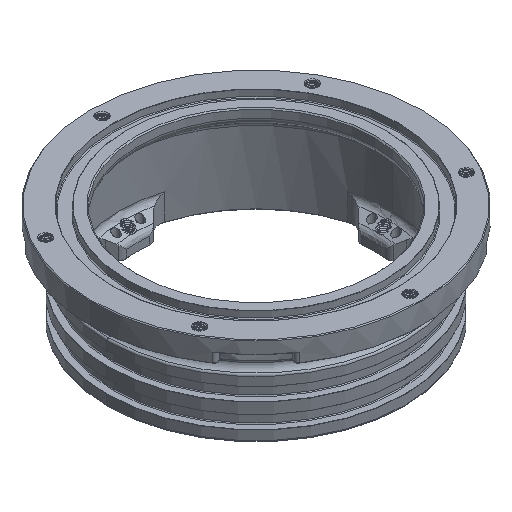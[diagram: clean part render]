
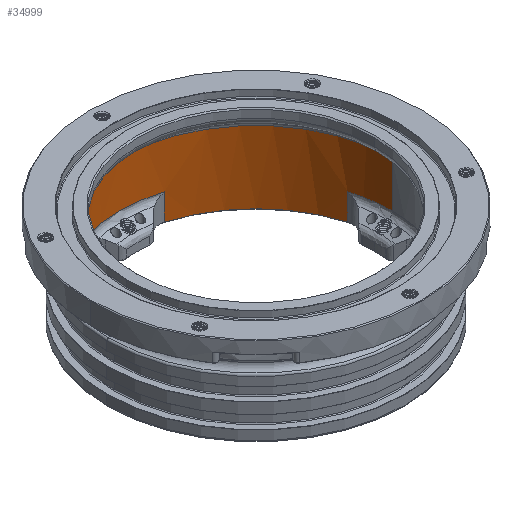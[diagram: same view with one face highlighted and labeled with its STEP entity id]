
A CAD part, isometric view. The second image highlights one B-rep face of the part: STEP entity #34999.
In plain terms, the highlighted cylindrical face has radius 36.5 mm (diameter 73 mm), a partial arc.
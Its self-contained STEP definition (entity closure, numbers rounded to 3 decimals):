
#377 = LINE ( 'NONE', #11102, #10135 ) ;
#515 = ORIENTED_EDGE ( 'NONE', *, *, #72603, .F. ) ;
#2353 = CIRCLE ( 'NONE', #53773, 36.5 ) ;
#2361 = CARTESIAN_POINT ( 'NONE',  ( -34.986, 10.402, 27.091 ) ) ;
#2571 = VERTEX_POINT ( 'NONE', #11653 ) ;
#7696 = ORIENTED_EDGE ( 'NONE', *, *, #52631, .T. ) ;
#8947 = CARTESIAN_POINT ( 'NONE',  ( 36.5, 0., 19.632 ) ) ;
#10135 = VECTOR ( 'NONE', #82217, 1000. ) ;
#11102 = CARTESIAN_POINT ( 'NONE',  ( 34.986, 10.402, 27.091 ) ) ;
#11653 = CARTESIAN_POINT ( 'NONE',  ( 34.986, 10.402, 0.3 ) ) ;
#16911 = EDGE_CURVE ( 'NONE', #83303, #72485, #17758, .T. ) ;
#17758 = LINE ( 'NONE', #61953, #98865 ) ;
#17760 = LINE ( 'NONE', #54180, #29655 ) ;
#18682 = CARTESIAN_POINT ( 'NONE',  ( 36.5, 0., 7.368 ) ) ;
#19666 = CIRCLE ( 'NONE', #86448, 36.5 ) ;
#19889 = CARTESIAN_POINT ( 'NONE',  ( -10.402, 34.986, 7.368 ) ) ;
#20018 = EDGE_CURVE ( 'NONE', #107237, #28414, #49514, .T. ) ;
#20948 = FACE_OUTER_BOUND ( 'NONE', #108835, .T. ) ;
#21342 = ORIENTED_EDGE ( 'NONE', *, *, #50913, .T. ) ;
#22256 = ORIENTED_EDGE ( 'NONE', *, *, #71690, .T. ) ;
#22712 = CARTESIAN_POINT ( 'NONE',  ( -10.402, 34.986, 0.3 ) ) ;
#28286 = DIRECTION ( 'NONE',  ( 0., 0., -1. ) ) ;
#28414 = VERTEX_POINT ( 'NONE', #91072 ) ;
#29282 = CARTESIAN_POINT ( 'NONE',  ( 0., 0., 7.368 ) ) ;
#29655 = VECTOR ( 'NONE', #113277, 1000. ) ;
#31273 = AXIS2_PLACEMENT_3D ( 'NONE', #29282, #48346, #102731 ) ;
#32812 = DIRECTION ( 'NONE',  ( 0., 0., -1. ) ) ;
#34999 = ADVANCED_FACE ( 'NONE', ( #20948 ), #74718, .F. ) ;
#37297 = ORIENTED_EDGE ( 'NONE', *, *, #89920, .T. ) ;
#40660 = EDGE_CURVE ( 'NONE', #46377, #2571, #2353, .T. ) ;
#41229 = ORIENTED_EDGE ( 'NONE', *, *, #94857, .T. ) ;
#41460 = DIRECTION ( 'NONE',  ( 1., 0., 0. ) ) ;
#43522 = CARTESIAN_POINT ( 'NONE',  ( 0., 0., 7.368 ) ) ;
#44802 = CARTESIAN_POINT ( 'NONE',  ( 0., 0., 0.3 ) ) ;
#45377 = DIRECTION ( 'NONE',  ( 1., 0., 0. ) ) ;
#46377 = VERTEX_POINT ( 'NONE', #116414 ) ;
#48346 = DIRECTION ( 'NONE',  ( 0., 0., -1. ) ) ;
#48543 = VERTEX_POINT ( 'NONE', #19889 ) ;
#49514 = LINE ( 'NONE', #2361, #102777 ) ;
#50355 = AXIS2_PLACEMENT_3D ( 'NONE', #43522, #32812, #108044 ) ;
#50913 = EDGE_CURVE ( 'NONE', #68810, #88355, #78930, .T. ) ;
#50997 = CARTESIAN_POINT ( 'NONE',  ( 0., 0., 7.368 ) ) ;
#52367 = CARTESIAN_POINT ( 'NONE',  ( -36.5, 0., 19.632 ) ) ;
#52631 = EDGE_CURVE ( 'NONE', #48543, #77913, #101883, .T. ) ;
#53773 = AXIS2_PLACEMENT_3D ( 'NONE', #44802, #81243, #108742 ) ;
#54180 = CARTESIAN_POINT ( 'NONE',  ( -10.402, 34.986, 27.091 ) ) ;
#55148 = CARTESIAN_POINT ( 'NONE',  ( 0., 0., 0.3 ) ) ;
#58951 = CARTESIAN_POINT ( 'NONE',  ( -34.986, 10.402, 7.368 ) ) ;
#60050 = EDGE_CURVE ( 'NONE', #48543, #87631, #17760, .T. ) ;
#61953 = CARTESIAN_POINT ( 'NONE',  ( -36.5, 0., 0. ) ) ;
#62939 = ORIENTED_EDGE ( 'NONE', *, *, #20018, .T. ) ;
#64568 = DIRECTION ( 'NONE',  ( 0., 0., 1. ) ) ;
#64681 = DIRECTION ( 'NONE',  ( 1., 0., 0. ) ) ;
#65567 = LINE ( 'NONE', #73961, #102464 ) ;
#65730 = DIRECTION ( 'NONE',  ( 1., 0., 0. ) ) ;
#68810 = VERTEX_POINT ( 'NONE', #101053 ) ;
#70455 = CIRCLE ( 'NONE', #114410, 36.5 ) ;
#71301 = ORIENTED_EDGE ( 'NONE', *, *, #60050, .F. ) ;
#71690 = EDGE_CURVE ( 'NONE', #88355, #75256, #65567, .T. ) ;
#72485 = VERTEX_POINT ( 'NONE', #52367 ) ;
#72603 = EDGE_CURVE ( 'NONE', #68810, #2571, #377, .T. ) ;
#73428 = DIRECTION ( 'NONE',  ( 0., 0., 1. ) ) ;
#73604 = ORIENTED_EDGE ( 'NONE', *, *, #75301, .T. ) ;
#73961 = CARTESIAN_POINT ( 'NONE',  ( 36.5, 0., 0. ) ) ;
#74718 = CYLINDRICAL_SURFACE ( 'NONE', #80251, 36.5 ) ;
#75256 = VERTEX_POINT ( 'NONE', #8947 ) ;
#75301 = EDGE_CURVE ( 'NONE', #75256, #72485, #19666, .T. ) ;
#77287 = DIRECTION ( 'NONE',  ( 0., 0., -1. ) ) ;
#77913 = VERTEX_POINT ( 'NONE', #106792 ) ;
#78930 = CIRCLE ( 'NONE', #31273, 36.5 ) ;
#80251 = AXIS2_PLACEMENT_3D ( 'NONE', #93840, #64568, #65730 ) ;
#81243 = DIRECTION ( 'NONE',  ( 0., 0., -1. ) ) ;
#82217 = DIRECTION ( 'NONE',  ( 0., 0., -1. ) ) ;
#83303 = VERTEX_POINT ( 'NONE', #100761 ) ;
#83645 = DIRECTION ( 'NONE',  ( 0., 0., -1. ) ) ;
#86448 = AXIS2_PLACEMENT_3D ( 'NONE', #107565, #73428, #45377 ) ;
#87631 = VERTEX_POINT ( 'NONE', #22712 ) ;
#88355 = VERTEX_POINT ( 'NONE', #18682 ) ;
#89472 = EDGE_CURVE ( 'NONE', #28414, #87631, #70455, .T. ) ;
#89920 = EDGE_CURVE ( 'NONE', #83303, #107237, #101012, .T. ) ;
#91072 = CARTESIAN_POINT ( 'NONE',  ( -34.986, 10.402, 0.3 ) ) ;
#91622 = VECTOR ( 'NONE', #83645, 1000. ) ;
#93840 = CARTESIAN_POINT ( 'NONE',  ( 0., 0., 0. ) ) ;
#94857 = EDGE_CURVE ( 'NONE', #77913, #46377, #112303, .T. ) ;
#94935 = DIRECTION ( 'NONE',  ( 0., 0., -1. ) ) ;
#98423 = DIRECTION ( 'NONE',  ( 0., 0., 1. ) ) ;
#98865 = VECTOR ( 'NONE', #98423, 1000. ) ;
#100563 = ORIENTED_EDGE ( 'NONE', *, *, #40660, .T. ) ;
#100761 = CARTESIAN_POINT ( 'NONE',  ( -36.5, 0., 7.368 ) ) ;
#101012 = CIRCLE ( 'NONE', #118145, 36.5 ) ;
#101053 = CARTESIAN_POINT ( 'NONE',  ( 34.986, 10.402, 7.368 ) ) ;
#101883 = CIRCLE ( 'NONE', #50355, 36.5 ) ;
#102043 = DIRECTION ( 'NONE',  ( 0., 0., 1. ) ) ;
#102464 = VECTOR ( 'NONE', #102043, 1000. ) ;
#102731 = DIRECTION ( 'NONE',  ( 1., 0., 0. ) ) ;
#102777 = VECTOR ( 'NONE', #94935, 1000. ) ;
#106792 = CARTESIAN_POINT ( 'NONE',  ( 10.402, 34.986, 7.368 ) ) ;
#107237 = VERTEX_POINT ( 'NONE', #58951 ) ;
#107565 = CARTESIAN_POINT ( 'NONE',  ( 0., 0., 19.632 ) ) ;
#108044 = DIRECTION ( 'NONE',  ( 1., 0., 0. ) ) ;
#108412 = ORIENTED_EDGE ( 'NONE', *, *, #89472, .T. ) ;
#108742 = DIRECTION ( 'NONE',  ( 1., 0., 0. ) ) ;
#108835 = EDGE_LOOP ( 'NONE', ( #110393, #37297, #62939, #108412, #71301, #7696, #41229, #100563, #515, #21342, #22256, #73604 ) ) ;
#110393 = ORIENTED_EDGE ( 'NONE', *, *, #16911, .F. ) ;
#112303 = LINE ( 'NONE', #112895, #91622 ) ;
#112895 = CARTESIAN_POINT ( 'NONE',  ( 10.402, 34.986, 27.091 ) ) ;
#113277 = DIRECTION ( 'NONE',  ( 0., 0., -1. ) ) ;
#114410 = AXIS2_PLACEMENT_3D ( 'NONE', #55148, #28286, #64681 ) ;
#116414 = CARTESIAN_POINT ( 'NONE',  ( 10.402, 34.986, 0.3 ) ) ;
#118145 = AXIS2_PLACEMENT_3D ( 'NONE', #50997, #77287, #41460 ) ;
